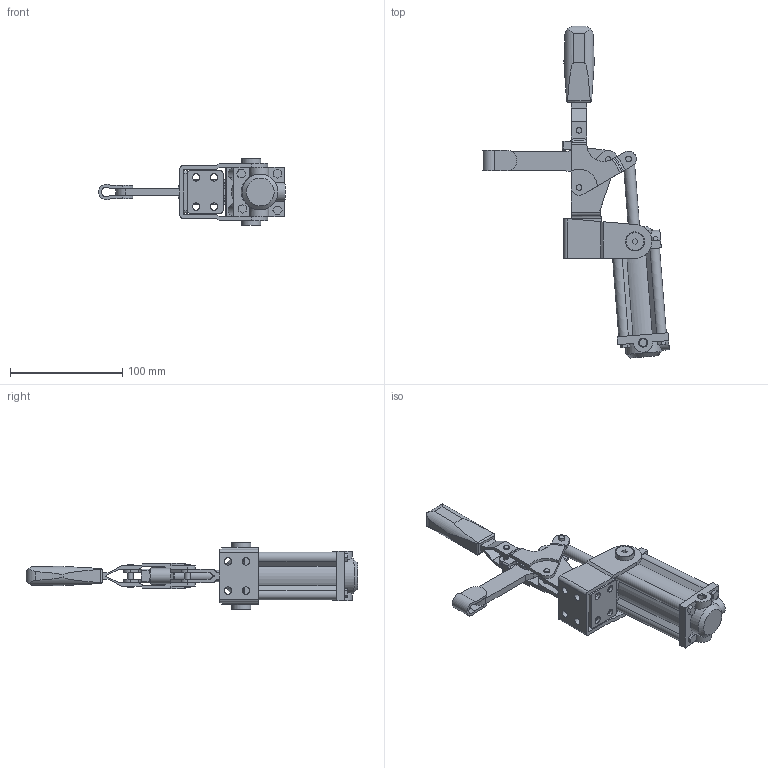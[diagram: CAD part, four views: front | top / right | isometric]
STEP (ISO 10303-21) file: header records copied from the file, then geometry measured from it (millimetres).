
FILE_DESCRIPTION( ( 'STEP AP203' ), '1' );
FILE_NAME( 'C:/Temp/Ganter_Step_05_03_2020/data/2_4/gn862_1/gn862_1_epv3s/gn862_1_epv3s/Toggle clamp GN 862.1-200-EPV3S (closed).stp', '2020-03-13T05:50:09', ( 'License CC BY-ND 4.0' ), ( 'CADENAS' ), ' ', 'PARTsolutions', ' ' );
FILE_SCHEMA( ( 'CONFIG_CONTROL_DESIGN' ) );
Length unit declared in the file: millimetre
Products named in the file (8): Toggle clamp GN 862.1-200-EPV3S (closed); _Toggle clamp GN 862.1-200-EPV3S-1; _Toggle clamp GN 862.1-200-EPV3S (0)-5; _Toggle clamp GN 862.1-200-EPV3S (0)-4; _Toggle clamp GN 862.1-200-EPV3S (0)-2; _Toggle clamp GN 862.1-200-EPV3S-6; _Toggle clamp GN 862.1-200-EPV3S (0)-3; _Toggle clamp GN 862.1-200-EPV3S-7
Assembly tree (7 placements, depth 2):
  Toggle clamp GN 862.1-200-EPV3S (closed)
    _Toggle clamp GN 862.1-200-EPV3S-1
    _Toggle clamp GN 862.1-200-EPV3S (0)-5
    _Toggle clamp GN 862.1-200-EPV3S (0)-4
    _Toggle clamp GN 862.1-200-EPV3S (0)-2
    _Toggle clamp GN 862.1-200-EPV3S-6
    _Toggle clamp GN 862.1-200-EPV3S (0)-3
    _Toggle clamp GN 862.1-200-EPV3S-7
Bounding box: 166.43 x 296 x 59.5 mm (x, y, z)
Volume: 190226.7 mm3; surface area: 93468.1 mm2
Topology: 7 solids, 7 shells, 398 faces, 1068 edges, 711 vertices
Faces by surface type: plane 236, cylinder 125, torus 20, cone 17
Full cylindrical faces by diameter (mm): 5 x20, 6.5 x8, 6.647 x2, 8.566 x2, 10 x2, 15.8 x2, 17 x4, 22 x3, 32 x3
Entity records: 13303 total; most frequent: CARTESIAN_POINT 3218, DIRECTION 2002, ORIENTED_EDGE 1990, EDGE_CURVE 995, AXIS2_PLACEMENT_3D 697, VERTEX_POINT 693, LINE 608, VECTOR 608
